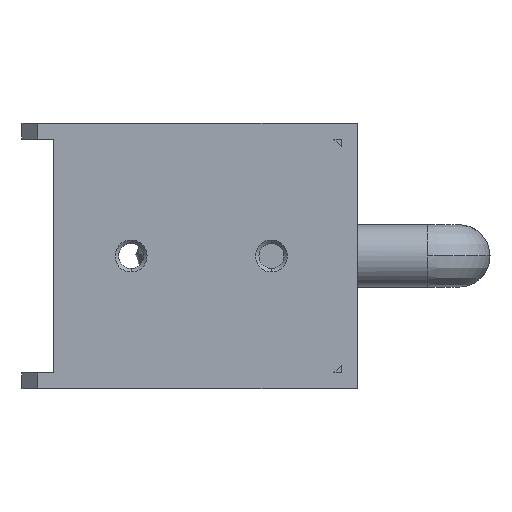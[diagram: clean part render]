
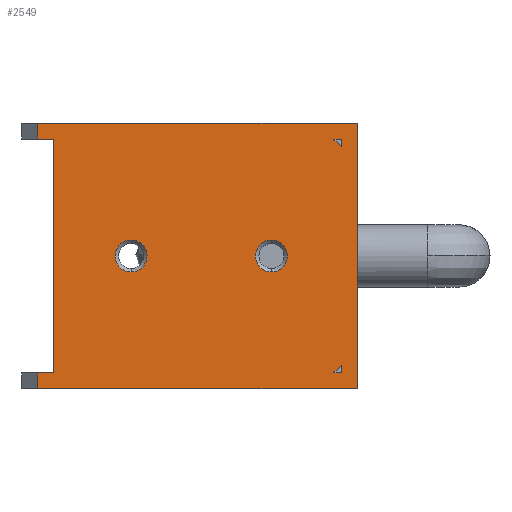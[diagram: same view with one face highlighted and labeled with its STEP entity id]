
A CAD part, left-side view. The second image highlights one B-rep face of the part: STEP entity #2549.
In plain terms, the highlighted planar face has unit normal (-1, 0, 0).
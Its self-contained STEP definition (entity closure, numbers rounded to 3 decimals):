
#98 = AXIS2_PLACEMENT_3D ( 'NONE', #4119, #4120, #4121 ) ;
#100 = CIRCLE ( 'NONE', #98, 1.025 ) ;
#503 = EDGE_CURVE ( 'NONE', #1261, #1416, #100, .T. ) ;
#1140 = ORIENTED_EDGE ( 'NONE', *, *, #2296, .F. ) ;
#1142 = ORIENTED_EDGE ( 'NONE', *, *, #3045, .T. ) ;
#1144 = ORIENTED_EDGE ( 'NONE', *, *, #3044, .T. ) ;
#1146 = ORIENTED_EDGE ( 'NONE', *, *, #3046, .T. ) ;
#1156 = ORIENTED_EDGE ( 'NONE', *, *, #3048, .F. ) ;
#1158 = ORIENTED_EDGE ( 'NONE', *, *, #3047, .T. ) ;
#1162 = ORIENTED_EDGE ( 'NONE', *, *, #3038, .T. ) ;
#1170 = ORIENTED_EDGE ( 'NONE', *, *, #2307, .T. ) ;
#1172 = ORIENTED_EDGE ( 'NONE', *, *, #2311, .F. ) ;
#1176 = ORIENTED_EDGE ( 'NONE', *, *, #3020, .T. ) ;
#1178 = ORIENTED_EDGE ( 'NONE', *, *, #2303, .T. ) ;
#1182 = ORIENTED_EDGE ( 'NONE', *, *, #3021, .T. ) ;
#1184 = ORIENTED_EDGE ( 'NONE', *, *, #503, .T. ) ;
#1192 = ORIENTED_EDGE ( 'NONE', *, *, #3022, .T. ) ;
#1194 = ORIENTED_EDGE ( 'NONE', *, *, #2687, .T. ) ;
#1210 = ORIENTED_EDGE ( 'NONE', *, *, #3036, .T. ) ;
#1216 = ORIENTED_EDGE ( 'NONE', *, *, #3026, .T. ) ;
#1218 = ORIENTED_EDGE ( 'NONE', *, *, #3040, .T. ) ;
#1261 = VERTEX_POINT ( 'NONE', #4481 ) ;
#1416 = VERTEX_POINT ( 'NONE', #4602 ) ;
#1433 = VERTEX_POINT ( 'NONE', #4619 ) ;
#1436 = VERTEX_POINT ( 'NONE', #4622 ) ;
#2296 = EDGE_CURVE ( 'NONE', #3614, #3611, #5369, .T. ) ;
#2303 = EDGE_CURVE ( 'NONE', #3614, #3627, #5379, .T. ) ;
#2307 = EDGE_CURVE ( 'NONE', #3644, #3617, #5401, .T. ) ;
#2311 = EDGE_CURVE ( 'NONE', #3653, #3617, #5409, .T. ) ;
#2549 = ADVANCED_FACE ( 'NONE', ( #7358, #7353, #7356, #7360, #7359 ), #7364, .T. ) ;
#2687 = EDGE_CURVE ( 'NONE', #1436, #1433, #6222, .T. ) ;
#3020 = EDGE_CURVE ( 'NONE', #3627, #3611, #13698, .T. ) ;
#3021 = EDGE_CURVE ( 'NONE', #1416, #1261, #9487, .T. ) ;
#3022 = EDGE_CURVE ( 'NONE', #3653, #3644, #13703, .T. ) ;
#3026 = EDGE_CURVE ( 'NONE', #3661, #3657, #13715, .T. ) ;
#3036 = EDGE_CURVE ( 'NONE', #3659, #3661, #13752, .T. ) ;
#3038 = EDGE_CURVE ( 'NONE', #1433, #1436, #9508, .T. ) ;
#3040 = EDGE_CURVE ( 'NONE', #3657, #3594, #13761, .T. ) ;
#3044 = EDGE_CURVE ( 'NONE', #3594, #3602, #13776, .T. ) ;
#3045 = EDGE_CURVE ( 'NONE', #3602, #3707, #13779, .T. ) ;
#3046 = EDGE_CURVE ( 'NONE', #3707, #3701, #13782, .T. ) ;
#3047 = EDGE_CURVE ( 'NONE', #3701, #3693, #13785, .T. ) ;
#3048 = EDGE_CURVE ( 'NONE', #3659, #3693, #13788, .T. ) ;
#3532 = EDGE_LOOP ( 'NONE', ( #1178, #1176, #1140 ) ) ;
#3536 = EDGE_LOOP ( 'NONE', ( #1172, #1192, #1170 ) ) ;
#3551 = EDGE_LOOP ( 'NONE', ( #1194, #1162 ) ) ;
#3553 = EDGE_LOOP ( 'NONE', ( #1144, #1142, #1146, #1158, #1156, #1210, #1216, #1218 ) ) ;
#3566 = EDGE_LOOP ( 'NONE', ( #1184, #1182 ) ) ;
#3594 = VERTEX_POINT ( 'NONE', #14875 ) ;
#3602 = VERTEX_POINT ( 'NONE', #14889 ) ;
#3611 = VERTEX_POINT ( 'NONE', #14898 ) ;
#3614 = VERTEX_POINT ( 'NONE', #14901 ) ;
#3617 = VERTEX_POINT ( 'NONE', #14904 ) ;
#3627 = VERTEX_POINT ( 'NONE', #14914 ) ;
#3644 = VERTEX_POINT ( 'NONE', #14931 ) ;
#3653 = VERTEX_POINT ( 'NONE', #14940 ) ;
#3657 = VERTEX_POINT ( 'NONE', #14944 ) ;
#3659 = VERTEX_POINT ( 'NONE', #14946 ) ;
#3661 = VERTEX_POINT ( 'NONE', #14948 ) ;
#3693 = VERTEX_POINT ( 'NONE', #14980 ) ;
#3701 = VERTEX_POINT ( 'NONE', #14988 ) ;
#3707 = VERTEX_POINT ( 'NONE', #14994 ) ;
#4119 = CARTESIAN_POINT ( 'NONE',  ( -31.064, 4.134, -3.623 ) ) ;
#4120 = DIRECTION ( 'NONE',  ( 1., 0., 0. ) ) ;
#4121 = DIRECTION ( 'NONE',  ( 0., 0., 1. ) ) ;
#4481 = CARTESIAN_POINT ( 'NONE',  ( -31.064, 4.134, -2.598 ) ) ;
#4602 = CARTESIAN_POINT ( 'NONE',  ( -31.064, 4.134, -4.648 ) ) ;
#4619 = CARTESIAN_POINT ( 'NONE',  ( -31.064, 13.134, -4.648 ) ) ;
#4622 = CARTESIAN_POINT ( 'NONE',  ( -31.064, 13.134, -2.598 ) ) ;
#5369 = LINE ( 'NONE', #5370, #5737 ) ;
#5370 = CARTESIAN_POINT ( 'NONE',  ( -31.064, -0.116, 3.627 ) ) ;
#5379 = LINE ( 'NONE', #5398, #5743 ) ;
#5380 = DIRECTION ( 'NONE',  ( 0., -0.707, -0.707 ) ) ;
#5398 = CARTESIAN_POINT ( 'NONE',  ( -31.064, -0.116, 3.877 ) ) ;
#5400 = DIRECTION ( 'NONE',  ( 0., -1., 0. ) ) ;
#5401 = LINE ( 'NONE', #5411, #5749 ) ;
#5409 = LINE ( 'NONE', #5421, #5751 ) ;
#5411 = CARTESIAN_POINT ( 'NONE',  ( -31.064, -0.116, -11.123 ) ) ;
#5412 = DIRECTION ( 'NONE',  ( 0., 1., 0. ) ) ;
#5421 = CARTESIAN_POINT ( 'NONE',  ( -31.064, -0.116, -10.873 ) ) ;
#5422 = DIRECTION ( 'NONE',  ( 0., 0.707, -0.707 ) ) ;
#5737 = VECTOR ( 'NONE', #5380, 1000. ) ;
#5743 = VECTOR ( 'NONE', #5400, 1000. ) ;
#5749 = VECTOR ( 'NONE', #5412, 1000. ) ;
#5751 = VECTOR ( 'NONE', #5422, 1000. ) ;
#6025 = AXIS2_PLACEMENT_3D ( 'NONE', #7365, #7367, #7368 ) ;
#6222 = CIRCLE ( 'NONE', #6225, 1.025 ) ;
#6225 = AXIS2_PLACEMENT_3D ( 'NONE', #7841, #7842, #7843 ) ;
#7353 = FACE_BOUND ( 'NONE', #3551, .T. ) ;
#7356 = FACE_BOUND ( 'NONE', #3566, .T. ) ;
#7358 = FACE_BOUND ( 'NONE', #3536, .T. ) ;
#7359 = FACE_OUTER_BOUND ( 'NONE', #3553, .T. ) ;
#7360 = FACE_BOUND ( 'NONE', #3532, .T. ) ;
#7364 = PLANE ( 'NONE',  #6025 ) ;
#7365 = CARTESIAN_POINT ( 'NONE',  ( -31.064, 19.134, 4.877 ) ) ;
#7367 = DIRECTION ( 'NONE',  ( -1., 0., 0. ) ) ;
#7368 = DIRECTION ( 'NONE',  ( 0., 0., -1. ) ) ;
#7841 = CARTESIAN_POINT ( 'NONE',  ( -31.064, 13.134, -3.623 ) ) ;
#7842 = DIRECTION ( 'NONE',  ( 1., 0., 0. ) ) ;
#7843 = DIRECTION ( 'NONE',  ( 0., 0., 1. ) ) ;
#9485 = VECTOR ( 'NONE', #13708, 1000. ) ;
#9487 = CIRCLE ( 'NONE', #9489, 1.025 ) ;
#9488 = VECTOR ( 'NONE', #13714, 1000. ) ;
#9489 = AXIS2_PLACEMENT_3D ( 'NONE', #13711, #13712, #13713 ) ;
#9493 = VECTOR ( 'NONE', #13727, 1000. ) ;
#9505 = VECTOR ( 'NONE', #13767, 1000. ) ;
#9506 = VECTOR ( 'NONE', #13754, 1000. ) ;
#9508 = CIRCLE ( 'NONE', #9511, 1.025 ) ;
#9511 = AXIS2_PLACEMENT_3D ( 'NONE', #13762, #13763, #13764 ) ;
#9516 = VECTOR ( 'NONE', #13778, 1000. ) ;
#9517 = VECTOR ( 'NONE', #13781, 1000. ) ;
#9518 = VECTOR ( 'NONE', #13784, 1000. ) ;
#9519 = VECTOR ( 'NONE', #13787, 1000. ) ;
#9520 = VECTOR ( 'NONE', #13790, 1000. ) ;
#13698 = LINE ( 'NONE', #13699, #9485 ) ;
#13699 = CARTESIAN_POINT ( 'NONE',  ( -31.064, -0.366, -3.623 ) ) ;
#13703 = LINE ( 'NONE', #13704, #9488 ) ;
#13704 = CARTESIAN_POINT ( 'NONE',  ( -31.064, -0.366, -3.623 ) ) ;
#13708 = DIRECTION ( 'NONE',  ( 0., 0., -1. ) ) ;
#13711 = CARTESIAN_POINT ( 'NONE',  ( -31.064, 4.134, -3.623 ) ) ;
#13712 = DIRECTION ( 'NONE',  ( 1., 0., 0. ) ) ;
#13713 = DIRECTION ( 'NONE',  ( 0., 0., 1. ) ) ;
#13714 = DIRECTION ( 'NONE',  ( 0., 0., -1. ) ) ;
#13715 = LINE ( 'NONE', #13725, #9493 ) ;
#13725 = CARTESIAN_POINT ( 'NONE',  ( -31.064, -1.366, -3.623 ) ) ;
#13727 = DIRECTION ( 'NONE',  ( 0., 0., 1. ) ) ;
#13752 = LINE ( 'NONE', #13753, #9506 ) ;
#13753 = CARTESIAN_POINT ( 'NONE',  ( -31.064, 8.884, -12.123 ) ) ;
#13754 = DIRECTION ( 'NONE',  ( 0., -1., 0. ) ) ;
#13761 = LINE ( 'NONE', #13766, #9505 ) ;
#13762 = CARTESIAN_POINT ( 'NONE',  ( -31.064, 13.134, -3.623 ) ) ;
#13763 = DIRECTION ( 'NONE',  ( 1., 0., 0. ) ) ;
#13764 = DIRECTION ( 'NONE',  ( 0., 0., 1. ) ) ;
#13766 = CARTESIAN_POINT ( 'NONE',  ( -31.064, 8.884, 4.877 ) ) ;
#13767 = DIRECTION ( 'NONE',  ( 0., 1., 0. ) ) ;
#13776 = LINE ( 'NONE', #13777, #9516 ) ;
#13777 = CARTESIAN_POINT ( 'NONE',  ( -31.064, 19.134, 4.377 ) ) ;
#13778 = DIRECTION ( 'NONE',  ( 0., 0., -1. ) ) ;
#13779 = LINE ( 'NONE', #13780, #9517 ) ;
#13780 = CARTESIAN_POINT ( 'NONE',  ( -31.064, 8.884, 3.877 ) ) ;
#13781 = DIRECTION ( 'NONE',  ( 0., -1., 0. ) ) ;
#13782 = LINE ( 'NONE', #13783, #9518 ) ;
#13783 = CARTESIAN_POINT ( 'NONE',  ( -31.064, 18.134, -3.623 ) ) ;
#13784 = DIRECTION ( 'NONE',  ( 0., 0., -1. ) ) ;
#13785 = LINE ( 'NONE', #13786, #9519 ) ;
#13786 = CARTESIAN_POINT ( 'NONE',  ( -31.064, 8.884, -11.123 ) ) ;
#13787 = DIRECTION ( 'NONE',  ( 0., 1., 0. ) ) ;
#13788 = LINE ( 'NONE', #13789, #9520 ) ;
#13789 = CARTESIAN_POINT ( 'NONE',  ( -31.064, 19.134, -11.623 ) ) ;
#13790 = DIRECTION ( 'NONE',  ( 0., 0., 1. ) ) ;
#14875 = CARTESIAN_POINT ( 'NONE',  ( -31.064, 19.134, 4.877 ) ) ;
#14889 = CARTESIAN_POINT ( 'NONE',  ( -31.064, 19.134, 3.877 ) ) ;
#14898 = CARTESIAN_POINT ( 'NONE',  ( -31.064, -0.366, 3.377 ) ) ;
#14901 = CARTESIAN_POINT ( 'NONE',  ( -31.064, 0.134, 3.877 ) ) ;
#14904 = CARTESIAN_POINT ( 'NONE',  ( -31.064, 0.134, -11.123 ) ) ;
#14914 = CARTESIAN_POINT ( 'NONE',  ( -31.064, -0.366, 3.877 ) ) ;
#14931 = CARTESIAN_POINT ( 'NONE',  ( -31.064, -0.366, -11.123 ) ) ;
#14940 = CARTESIAN_POINT ( 'NONE',  ( -31.064, -0.366, -10.623 ) ) ;
#14944 = CARTESIAN_POINT ( 'NONE',  ( -31.064, -1.366, 4.877 ) ) ;
#14946 = CARTESIAN_POINT ( 'NONE',  ( -31.064, 19.134, -12.123 ) ) ;
#14948 = CARTESIAN_POINT ( 'NONE',  ( -31.064, -1.366, -12.123 ) ) ;
#14980 = CARTESIAN_POINT ( 'NONE',  ( -31.064, 19.134, -11.123 ) ) ;
#14988 = CARTESIAN_POINT ( 'NONE',  ( -31.064, 18.134, -11.123 ) ) ;
#14994 = CARTESIAN_POINT ( 'NONE',  ( -31.064, 18.134, 3.877 ) ) ;
